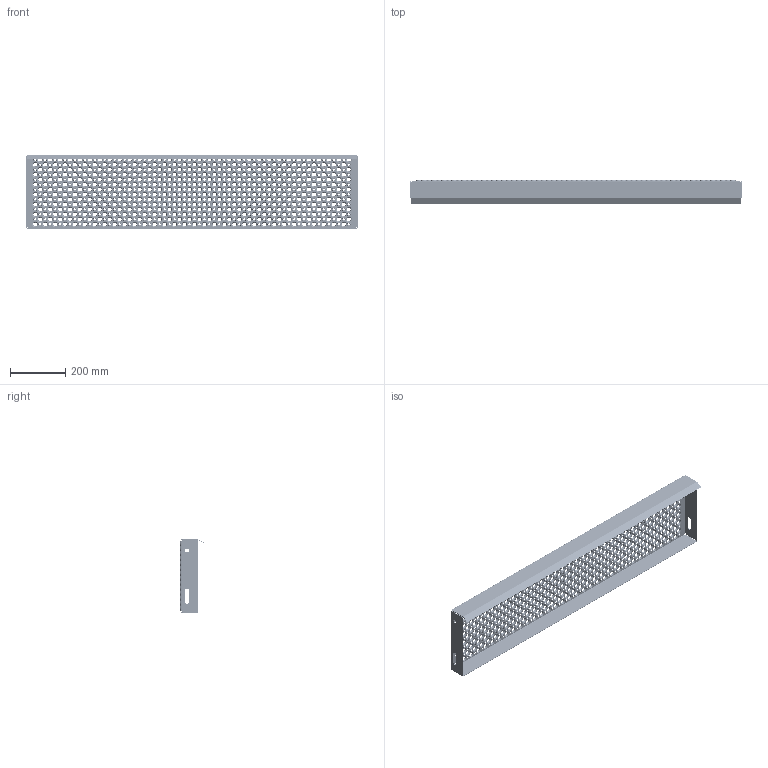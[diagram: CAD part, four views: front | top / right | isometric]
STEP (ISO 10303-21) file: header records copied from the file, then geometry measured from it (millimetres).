
FILE_DESCRIPTION (( 'STEP AP203' ), '1' );
FILE_NAME ('80242612G_Lejdertrin_265x1200x60_mm_.STEP', '2015-06-09T05:20:26', ( '' ), ( '' ), 'SwSTEP 2.0', 'SolidWorks 2013', '' );
FILE_SCHEMA (( 'CONFIG_CONTROL_DESIGN' ));
Products named in the file (1): 80242612G_Lejdertrin_265x1200x60_mm_
Bounding box: 1200 x 88.17 x 265 mm (x, y, z)
Volume: 972599.4 mm3; surface area: 1045182.6 mm2
Topology: 1 solids, 1 shells, 4556 faces, 12726 edges, 8172 vertices
Faces by surface type: cone 2688, torus 1792, cylinder 36, plane 32, bspline 8
Full cylindrical faces by diameter (mm): 14 x2
Entity records: 104801 total; most frequent: DIRECTION 20054, CARTESIAN_POINT 16097, ORIENTED_EDGE 11112, EDGE_LOOP 10838, AXIS2_PLACEMENT_3D 9981, FACE_OUTER_BOUND 6350, EDGE_CURVE 5556, VERTEX_POINT 5484
